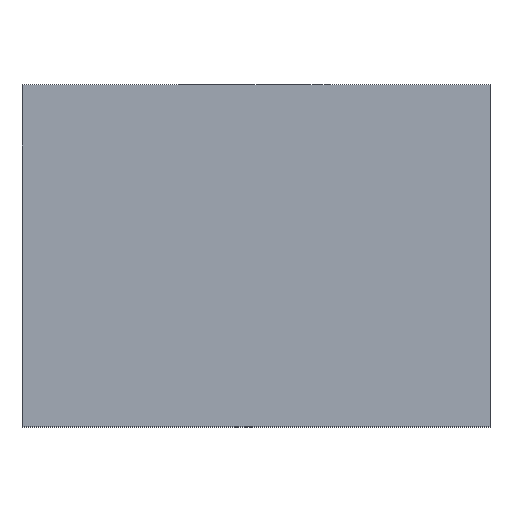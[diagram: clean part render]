
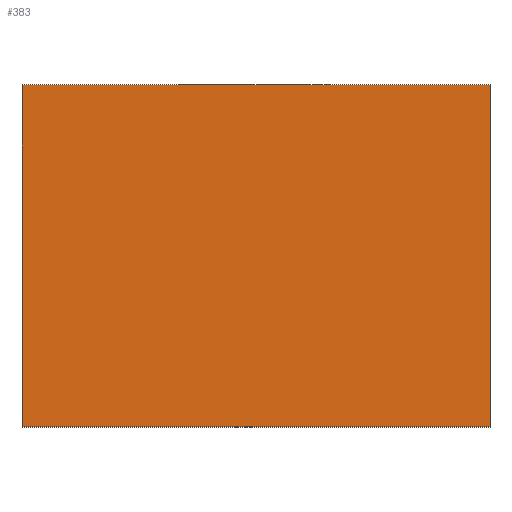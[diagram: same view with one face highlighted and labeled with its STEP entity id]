
A CAD part, top view. The second image highlights one B-rep face of the part: STEP entity #383.
In plain terms, the highlighted planar face has unit normal (0, 0, 1).
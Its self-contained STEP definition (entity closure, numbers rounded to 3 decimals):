
#5 = EDGE_CURVE ( 'NONE', #973, #463, #819, .T. ) ;
#55 = CARTESIAN_POINT ( 'NONE',  ( 0., 0., 22.5 ) ) ;
#98 = ORIENTED_EDGE ( 'NONE', *, *, #719, .T. ) ;
#111 = CARTESIAN_POINT ( 'NONE',  ( 104., 76., 22.5 ) ) ;
#117 = VECTOR ( 'NONE', #665, 1000. ) ;
#134 = VERTEX_POINT ( 'NONE', #55 ) ;
#157 = CARTESIAN_POINT ( 'NONE',  ( 0., 76., 22.5 ) ) ;
#193 = DIRECTION ( 'NONE',  ( 0., -1., 0. ) ) ;
#208 = VERTEX_POINT ( 'NONE', #940 ) ;
#236 = DIRECTION ( 'NONE',  ( 0., 0., -1. ) ) ;
#295 = CARTESIAN_POINT ( 'NONE',  ( 104., 0., 22.5 ) ) ;
#305 = ORIENTED_EDGE ( 'NONE', *, *, #5, .T. ) ;
#360 = DIRECTION ( 'NONE',  ( 0., 1., 0. ) ) ;
#383 = ADVANCED_FACE ( 'NONE', ( #891 ), #678, .F. ) ;
#387 = ORIENTED_EDGE ( 'NONE', *, *, #921, .T. ) ;
#415 = CARTESIAN_POINT ( 'NONE',  ( 0., 0., 22.5 ) ) ;
#463 = VERTEX_POINT ( 'NONE', #111 ) ;
#478 = CARTESIAN_POINT ( 'NONE',  ( 0., 0., 22.5 ) ) ;
#496 = CARTESIAN_POINT ( 'NONE',  ( 104., 0., 22.5 ) ) ;
#547 = VECTOR ( 'NONE', #1069, 1000. ) ;
#557 = ORIENTED_EDGE ( 'NONE', *, *, #592, .T. ) ;
#558 = LINE ( 'NONE', #999, #621 ) ;
#592 = EDGE_CURVE ( 'NONE', #134, #973, #1043, .T. ) ;
#621 = VECTOR ( 'NONE', #193, 1000. ) ;
#665 = DIRECTION ( 'NONE',  ( 1., 0., 0. ) ) ;
#678 = PLANE ( 'NONE',  #942 ) ;
#719 = EDGE_CURVE ( 'NONE', #463, #208, #976, .T. ) ;
#780 = EDGE_LOOP ( 'NONE', ( #387, #557, #305, #98 ) ) ;
#782 = VECTOR ( 'NONE', #360, 1000. ) ;
#819 = LINE ( 'NONE', #295, #782 ) ;
#891 = FACE_OUTER_BOUND ( 'NONE', #780, .T. ) ;
#921 = EDGE_CURVE ( 'NONE', #208, #134, #558, .T. ) ;
#940 = CARTESIAN_POINT ( 'NONE',  ( 0., 76., 22.5 ) ) ;
#942 = AXIS2_PLACEMENT_3D ( 'NONE', #415, #236, #1050 ) ;
#973 = VERTEX_POINT ( 'NONE', #496 ) ;
#976 = LINE ( 'NONE', #157, #547 ) ;
#999 = CARTESIAN_POINT ( 'NONE',  ( 0., 0., 22.5 ) ) ;
#1043 = LINE ( 'NONE', #478, #117 ) ;
#1050 = DIRECTION ( 'NONE',  ( -1., 0., 0. ) ) ;
#1069 = DIRECTION ( 'NONE',  ( -1., 0., 0. ) ) ;
